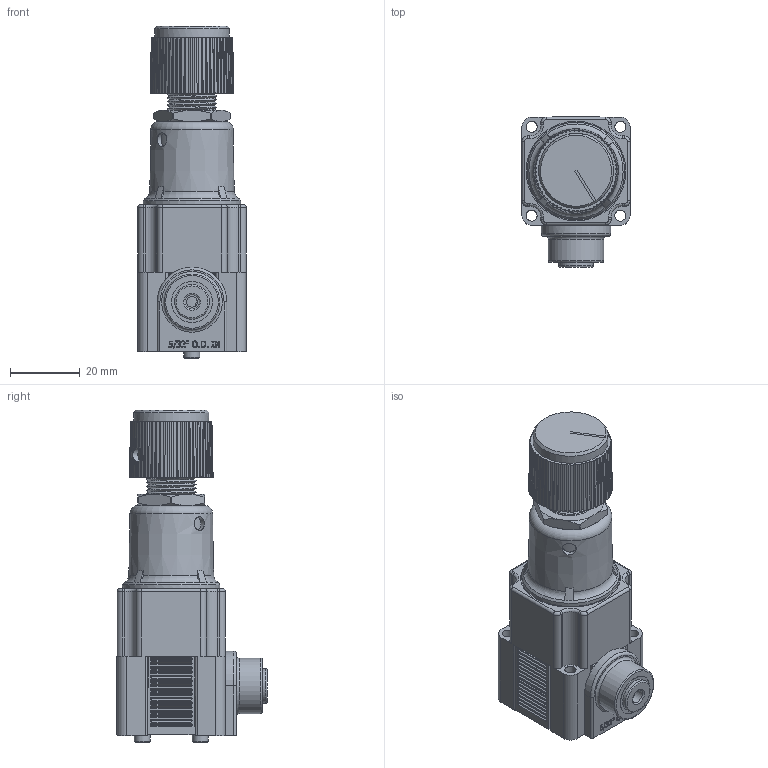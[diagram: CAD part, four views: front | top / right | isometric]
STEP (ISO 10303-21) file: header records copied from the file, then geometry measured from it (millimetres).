
FILE_DESCRIPTION(/* description */ (''),/* implementation_level */ '2;1');
FILE_NAME(/* name */ 'K:\Normteile INVENTOR\Air-Logic\Regulators\R6000\R 6___ 3 Push-In Fitting for 5''32 O.D. Tube In.igs.ipt.stp',/* time_stamp */ '2020-05-27T10:57:02+02:00',/* author */ ('Paul'),/* organization */ (''),/* preprocessor_version */ 'ST-DEVELOPER v18',/* originating_system */ 'Autodesk Inventor 2020',/* authorisation */ '');
FILE_SCHEMA (('AUTOMOTIVE_DESIGN { 1 0 10303 214 3 1 1 }'));
Length unit declared in the file: inch
Products named in the file (1): R 6___ 3 Push-In Fitting for 5'32 O.D. Tube In.igs
Bounding box: 31.19 x 43.08 x 95.02 mm (x, y, z)
Volume: 58874.5 mm3; surface area: 18122.8 mm2
Topology: 1 solids, 1 shells, 1106 faces, 2875 edges, 1860 vertices
Faces by surface type: plane 547, cylinder 352, bspline 88, cone 83, torus 36
Full cylindrical faces by diameter (mm): 1.194 x1, 2.032 x1, 3.073 x1, 3.124 x2, 3.175 x8, 3.988 x1, 4.064 x1, 4.089 x1, 4.521 x2, 6.045 x1, 8.382 x2, 9.169 x1, 9.398 x1, 9.906 x1, 11.735 x1, 12.903 x1, 15.85 x1, 19.406 x1, 21.476 x1, 27.94 x1, 28.575 x1
Entity records: 40661 total; most frequent: CARTESIAN_POINT 12165, ORIENTED_EDGE 5750, DIRECTION 5750, EDGE_CURVE 2875, AXIS2_PLACEMENT_3D 2165, VERTEX_POINT 1860, LINE 1420, VECTOR 1420
